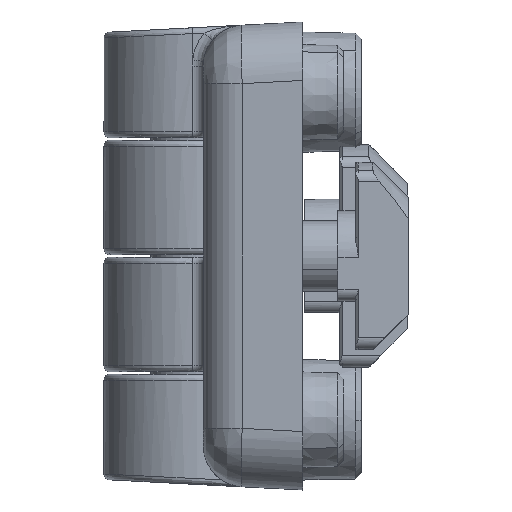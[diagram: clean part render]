
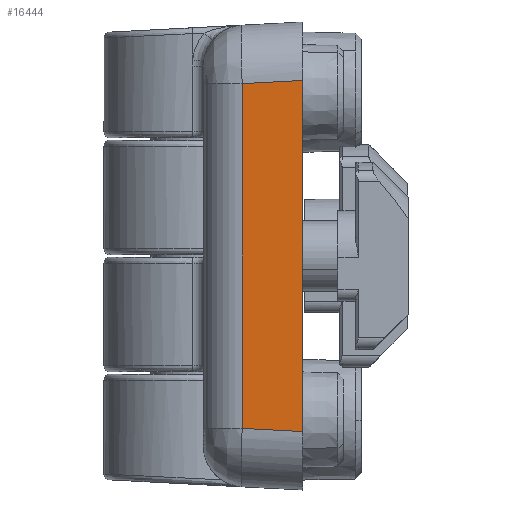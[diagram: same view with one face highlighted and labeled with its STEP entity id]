
A CAD part, left-side view. The second image highlights one B-rep face of the part: STEP entity #16444.
In plain terms, the highlighted planar face has unit normal (-0.999, 0.052, 0).
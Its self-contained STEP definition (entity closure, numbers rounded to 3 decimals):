
#67 = ORIENTED_EDGE ( 'NONE', *, *, #17670, .T. ) ;
#2545 = AXIS2_PLACEMENT_3D ( 'NONE', #5000, #24897, #13678 ) ;
#3872 = EDGE_CURVE ( 'NONE', #22398, #11153, #17993, .T. ) ;
#4330 = CARTESIAN_POINT ( 'NONE',  ( -30., 0., -15.007 ) ) ;
#5000 = CARTESIAN_POINT ( 'NONE',  ( -30., 0., -20. ) ) ;
#9553 = PLANE ( 'NONE',  #2545 ) ;
#11153 = VERTEX_POINT ( 'NONE', #14892 ) ;
#11875 = EDGE_CURVE ( 'NONE', #13379, #12639, #12437, .T. ) ;
#12437 = LINE ( 'NONE', #20961, #13409 ) ;
#12639 = VERTEX_POINT ( 'NONE', #25427 ) ;
#13379 = VERTEX_POINT ( 'NONE', #16530 ) ;
#13409 = VECTOR ( 'NONE', #14571, 1000. ) ;
#13678 = DIRECTION ( 'NONE',  ( -0.052, -0.999, 0. ) ) ;
#13976 = EDGE_LOOP ( 'NONE', ( #23304, #13981, #67, #22788 ) ) ;
#13981 = ORIENTED_EDGE ( 'NONE', *, *, #11875, .T. ) ;
#14571 = DIRECTION ( 'NONE',  ( 0., 0., -1. ) ) ;
#14892 = CARTESIAN_POINT ( 'NONE',  ( -30., 0., 15.007 ) ) ;
#16195 = VECTOR ( 'NONE', #18135, 1000. ) ;
#16444 = ADVANCED_FACE ( 'NONE', ( #20351 ), #9553, .T. ) ;
#16450 = DIRECTION ( 'NONE',  ( -0.052, -0.997, 0.052 ) ) ;
#16530 = CARTESIAN_POINT ( 'NONE',  ( -29.728, 5.183, 14.735 ) ) ;
#17670 = EDGE_CURVE ( 'NONE', #12639, #22398, #27606, .T. ) ;
#17993 = LINE ( 'NONE', #22241, #16195 ) ;
#18135 = DIRECTION ( 'NONE',  ( 0., 0., 1. ) ) ;
#19942 = EDGE_CURVE ( 'NONE', #13379, #11153, #26668, .T. ) ;
#20351 = FACE_OUTER_BOUND ( 'NONE', #13976, .T. ) ;
#20961 = CARTESIAN_POINT ( 'NONE',  ( -29.728, 5.183, -20. ) ) ;
#22241 = CARTESIAN_POINT ( 'NONE',  ( -30., 0., -20. ) ) ;
#22398 = VERTEX_POINT ( 'NONE', #4330 ) ;
#22788 = ORIENTED_EDGE ( 'NONE', *, *, #3872, .T. ) ;
#23304 = ORIENTED_EDGE ( 'NONE', *, *, #19942, .F. ) ;
#23481 = DIRECTION ( 'NONE',  ( -0.052, -0.997, -0.052 ) ) ;
#23543 = VECTOR ( 'NONE', #16450, 1000. ) ;
#23905 = VECTOR ( 'NONE', #23481, 1000. ) ;
#24684 = CARTESIAN_POINT ( 'NONE',  ( -29.904, 1.825, 14.911 ) ) ;
#24897 = DIRECTION ( 'NONE',  ( -0.999, 0.052, 0. ) ) ;
#25427 = CARTESIAN_POINT ( 'NONE',  ( -29.728, 5.183, -14.735 ) ) ;
#26668 = LINE ( 'NONE', #24684, #23543 ) ;
#27606 = LINE ( 'NONE', #27745, #23905 ) ;
#27745 = CARTESIAN_POINT ( 'NONE',  ( -29.728, 5.183, -14.735 ) ) ;
